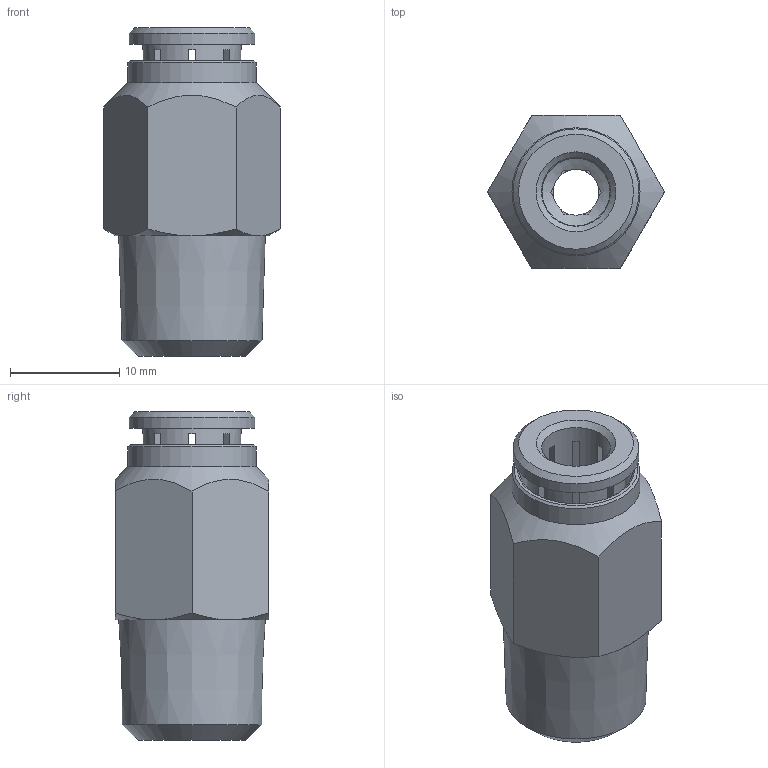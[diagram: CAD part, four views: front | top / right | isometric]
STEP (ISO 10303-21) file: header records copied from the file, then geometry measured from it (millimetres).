
FILE_DESCRIPTION(/* description */ (''),/* implementation_level */ '2;1');
FILE_NAME(/* name */ '9911_0701_0602_HSV-Gerade',/* time_stamp */ '2017-03-29T16:38:04+02:00',/* author */ (''),/* organization */ (''),/* preprocessor_version */ 'ST-DEVELOPER v16.5',/* originating_system */ 'HiCAD 2016 2101.1 Build 311',/* authorisation */ '');
FILE_SCHEMA (('AUTOMOTIVE_DESIGN { 1 0 10303 214 1 1 1 1 }'));
Length unit declared in the file: millimetre
Products named in the file (3): Root; RIVOLUZIONE_0; RIVOLUZIONE_2
Assembly tree (2 placements, depth 2):
  Root
    RIVOLUZIONE_0
    RIVOLUZIONE_2
Bounding box: 16.17 x 14 x 30 mm (x, y, z)
Volume: 2962.8 mm3; surface area: 2837.1 mm2
Topology: 2 solids, 2 shells, 87 faces, 229 edges, 148 vertices
Faces by surface type: plane 62, cone 16, cylinder 8, torus 1
Full cylindrical faces by diameter (mm): 4.2 x1, 6.2 x1, 6.3 x1, 8.978 x1, 9.9 x1, 10.3 x1, 11.5 x1, 11.7 x1
Entity records: 4634 total; most frequent: DIRECTION 486, CARTESIAN_POINT 433, PRESENTATION_STYLE_ASSIGNMENT 406, COLOUR_RGB 406, DRAUGHTING_PRE_DEFINED_CURVE_FONT 404, CURVE_STYLE 404, OVER_RIDING_STYLED_ITEM 404, ORIENTED_EDGE 404
